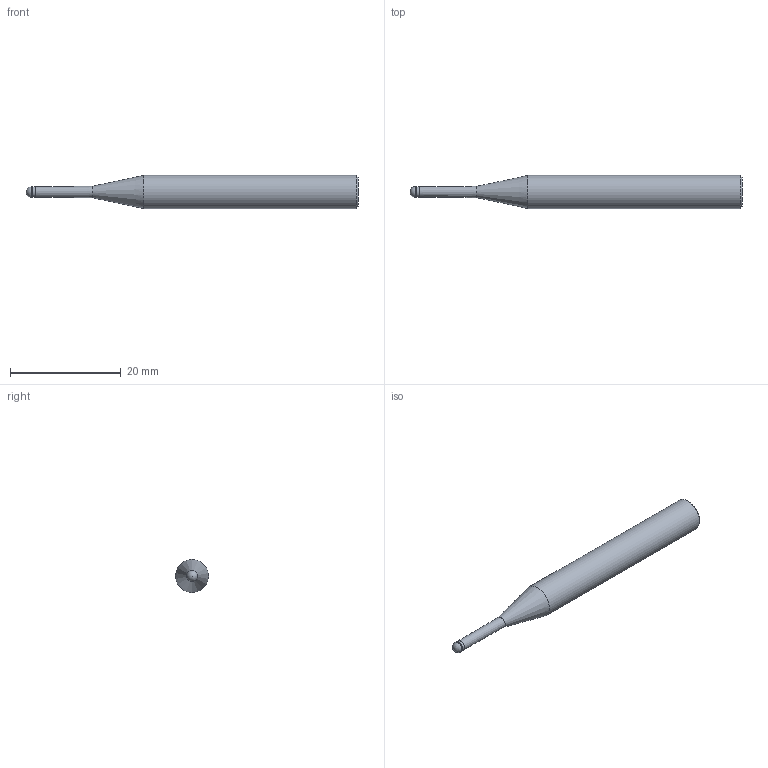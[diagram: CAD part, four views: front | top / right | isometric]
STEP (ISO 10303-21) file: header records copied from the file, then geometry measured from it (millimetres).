
FILE_DESCRIPTION(/* description */ (''),/* implementation_level */ '2;1');
FILE_NAME(/* name */ 'HGXPB2020-12-T0.4 0660.stp',/* time_stamp */ '2026-01-22T09:02:21+08:00',/* author */ (''),/* organization */ (''),/* preprocessor_version */ 'ST-DEVELOPER v16',/* originating_system */ 'SIEMENS PLM Software NX 10.0',/* authorisation */ '');
FILE_SCHEMA (('CONFIG_CONTROL_DESIGN'));
Length unit declared in the file: millimetre
Products named in the file (1): HGXPB2020-12-T0.4 0660_x_t
Bounding box: 60 x 6 x 6 mm (x, y, z)
Volume: 1256.6 mm3; surface area: 949.1 mm2
Topology: 1 solids, 1 shells, 9 faces, 17 edges, 10 vertices
Faces by surface type: cylinder 3, cone 3, plane 2, sphere 1
Full cylindrical faces by diameter (mm): 1.9 x1, 2 x1, 6 x1
Entity records: 258 total; most frequent: DIRECTION 36, CARTESIAN_POINT 26, AXIS2_PLACEMENT_3D 18, EDGE_LOOP 16, ORIENTED_EDGE 16, FACE_BOUND 14, ADVANCED_FACE 9, VERTEX_POINT 8
